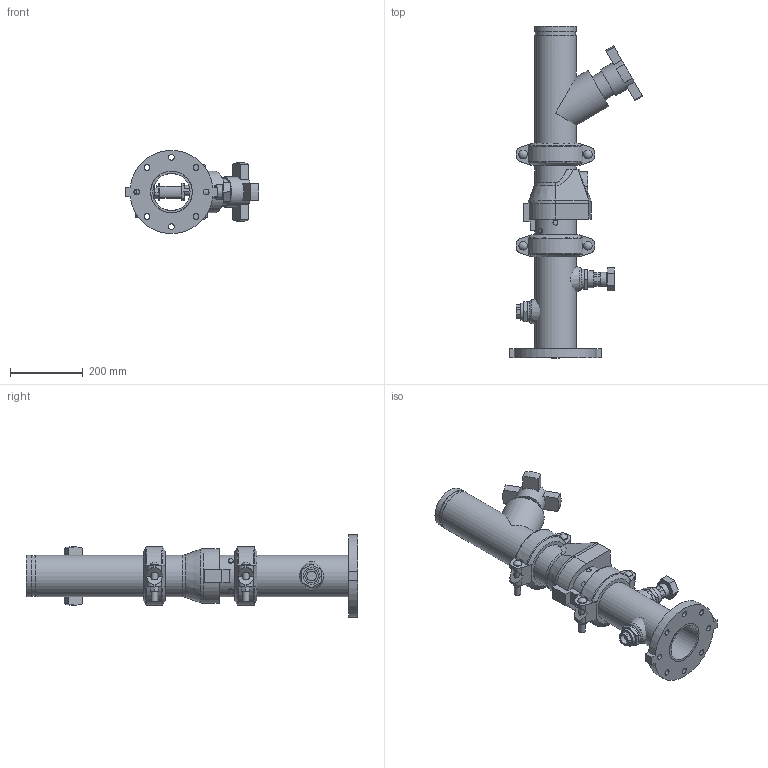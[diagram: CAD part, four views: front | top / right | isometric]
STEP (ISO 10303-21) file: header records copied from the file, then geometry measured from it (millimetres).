
FILE_DESCRIPTION(/* description */ ('VIC DVI PUMP DROP VERT S/383 (OGSxFLG) (S/924-1.25)','CAx-IF Rec.Pracs.---Representation and Presentation of Product Manufacturing Information (PMI)---4.0---2014-10-13'),/* implementation_level */ '2;1');
FILE_NAME(/* name */ 'C:\Users\Public\Documents\Victaulic.Temp\A849\Victaulic_IPS_Vertical DVI_CL 150_Series 383 (OGSxFLG)_924 (1.25)_04.0x04.0 (100x100).stp',/* time_stamp */ '2022-07-25T11:39:16+02:00',/* author */ ('Vjadhav'),/* organization */ ('Victaulic'),/* preprocessor_version */ 'ST-DEVELOPER v18',/* originating_system */ 'Autodesk Inventor 2020',/* authorisation */ '');
FILE_SCHEMA (('AP242_MANAGED_MODEL_BASED_3D_ENGINEERING_MIM_LF { 1 0 10303 442 1 1 4 }'));
Length unit declared in the file: inch
Products named in the file (8): 383_924 (1.25)-04.0x04.0; 741-04.0; Pipe-04.0; 177N-04.0; 789-04.0; 779-04.0; 924-04.0x01.25; 923-04.0x0.75
Assembly tree (8 placements, depth 2):
  383_924 (1.25)-04.0x04.0
    741-04.0
    Pipe-04.0
    177N-04.0  x2
    789-04.0
    779-04.0
    924-04.0x01.25
    923-04.0x0.75
Bounding box: 366.78 x 911.35 x 227.76 mm (x, y, z)
Volume: 7007408.9 mm3; surface area: 1134974 mm2
Topology: 8 solids, 9 shells, 440 faces, 1165 edges, 779 vertices
Faces by surface type: plane 260, cylinder 147, torus 14, cone 13, sphere 4, bspline 2
Full cylindrical faces by diameter (mm): 13.716 x2, 15.875 x8, 17.424 x4, 21.336 x1, 23.495 x4, 26.67 x2, 38.608 x1, 42.164 x1, 45.974 x4, 48.514 x1, 55.626 x2, 72.39 x1, 82.55 x1, 101.6 x2, 102.26 x3, 110.084 x6, 114.3 x16
Entity records: 12003 total; most frequent: CARTESIAN_POINT 2434, DIRECTION 1962, ORIENTED_EDGE 1808, EDGE_CURVE 904, AXIS2_PLACEMENT_3D 737, VERTEX_POINT 607, LINE 488, VECTOR 488
